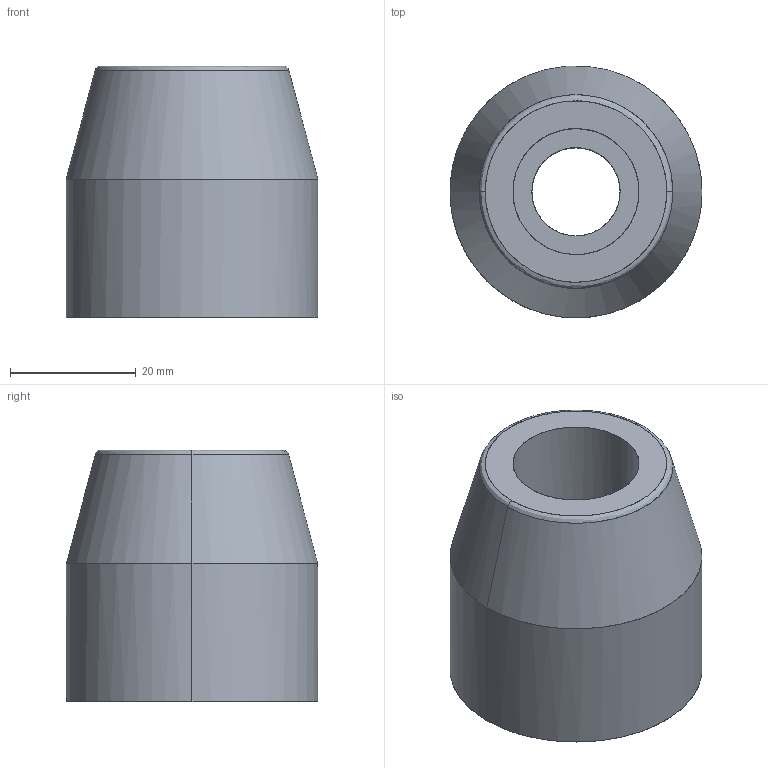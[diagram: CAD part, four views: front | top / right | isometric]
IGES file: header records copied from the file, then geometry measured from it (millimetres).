
Global section: file name: E:\UnigraphicsGraphicData\MISUMI_PRESS-PARTS\IGES\3d_lpu40-40_01660_r00.igs; native system: NX V5.0; preprocessor: UGS NX IGES V5.0; author: MISUMI; date: 20110105.161229; units: millimetre
Bounding box: 40 x 40 x 40 mm (x, y, z)
Surface area: 8516 mm2 (no closed solid volume)
Topology: 0 solids, 0 shells, 13 faces, 104 edges, 104 vertices
Faces by surface type: bspline 13
